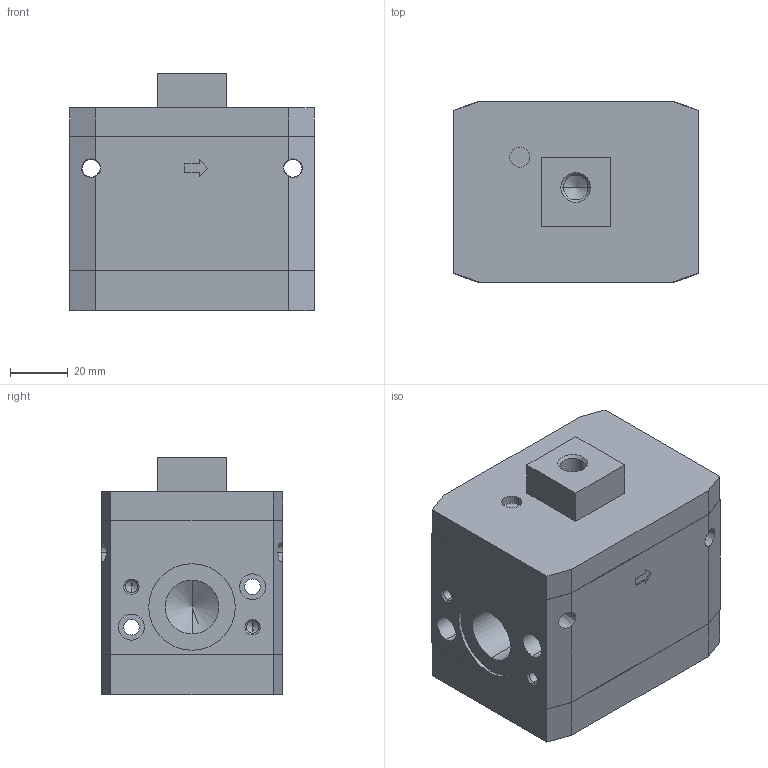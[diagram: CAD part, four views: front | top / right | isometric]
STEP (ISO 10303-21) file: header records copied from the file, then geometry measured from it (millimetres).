
FILE_DESCRIPTION((''),'2;1');
FILE_NAME('I:\DOC-EDP\Lib-3d\FRL\17320.stp','2003-06-16T15:00:09',('maffial1'),(''),'Autodesk Inventor 7','Autodesk Inventor 7','');
FILE_SCHEMA(('AUTOMOTIVE_DESIGN { 1 0 10303 214 1 1 1 1 }'));
Length unit declared in the file: millimetre
Products named in the file (1): 17320
Bounding box: 85 x 63 x 82.5 mm (x, y, z)
Volume: 353980.7 mm3; surface area: 41345.8 mm2
Topology: 1 solids, 1 shells, 122 faces, 308 edges, 188 vertices
Faces by surface type: bspline 53, plane 45, cylinder 14, cone 10
Entity records: 4117 total; most frequent: CARTESIAN_POINT 1350, ORIENTED_EDGE 584, DIRECTION 528, EDGE_CURVE 292, VECTOR 196, LINE 196, VERTEX_POINT 188, AXIS2_PLACEMENT_3D 166
